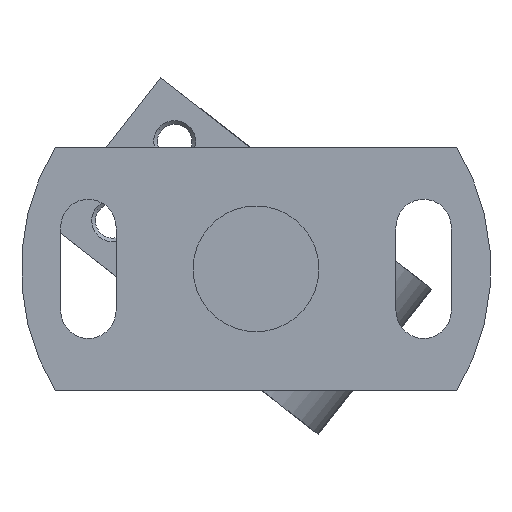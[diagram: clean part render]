
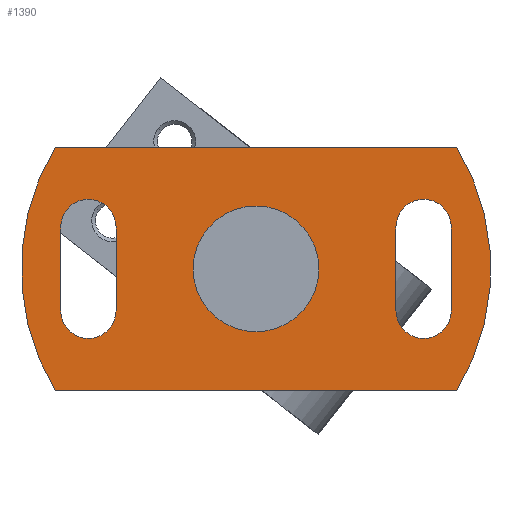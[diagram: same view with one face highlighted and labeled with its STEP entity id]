
A CAD part, front view. The second image highlights one B-rep face of the part: STEP entity #1390.
In plain terms, the highlighted planar face has unit normal (0, -1, 0).
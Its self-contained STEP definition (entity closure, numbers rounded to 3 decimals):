
#31 = EDGE_CURVE ( 'NONE', #4406, #4354, #5312, .T. ) ;
#32 = DIRECTION ( 'NONE',  ( 0., 1., 0. ) ) ;
#130 = DIRECTION ( 'NONE',  ( 0., 0., 1. ) ) ;
#144 = CIRCLE ( 'NONE', #6078, 28. ) ;
#234 = EDGE_CURVE ( 'NONE', #4860, #5114, #6269, .T. ) ;
#245 = LINE ( 'NONE', #2303, #6070 ) ;
#257 = CIRCLE ( 'NONE', #3882, 3.3 ) ;
#300 = CARTESIAN_POINT ( 'NONE',  ( -71.544, -56., -116.504 ) ) ;
#349 = CIRCLE ( 'NONE', #1489, 7.5 ) ;
#366 = DIRECTION ( 'NONE',  ( -1., 0., 0. ) ) ;
#471 = DIRECTION ( 'NONE',  ( 0.855, 0., -0.518 ) ) ;
#675 = EDGE_CURVE ( 'NONE', #4128, #5405, #3898, .T. ) ;
#721 = LINE ( 'NONE', #4176, #6034 ) ;
#734 = ORIENTED_EDGE ( 'NONE', *, *, #3634, .F. ) ;
#750 = CARTESIAN_POINT ( 'NONE',  ( -74.844, -56., -113.204 ) ) ;
#819 = EDGE_CURVE ( 'NONE', #2714, #5405, #144, .T. ) ;
#919 = VERTEX_POINT ( 'NONE', #1636 ) ;
#933 = ORIENTED_EDGE ( 'NONE', *, *, #4132, .F. ) ;
#956 = EDGE_CURVE ( 'NONE', #4354, #1024, #4026, .T. ) ;
#957 = VERTEX_POINT ( 'NONE', #1505 ) ;
#981 = DIRECTION ( 'NONE',  ( 0., 1., 0. ) ) ;
#1003 = CIRCLE ( 'NONE', #3375, 3.3 ) ;
#1023 = EDGE_CURVE ( 'NONE', #1024, #3345, #257, .T. ) ;
#1024 = VERTEX_POINT ( 'NONE', #5062 ) ;
#1046 = DIRECTION ( 'NONE',  ( 0., 0., -1. ) ) ;
#1048 = CARTESIAN_POINT ( 'NONE',  ( -71.544, -56., -103.204 ) ) ;
#1194 = EDGE_LOOP ( 'NONE', ( #6087, #3337, #2327, #6200, #3223 ) ) ;
#1198 = AXIS2_PLACEMENT_3D ( 'NONE', #2445, #4563, #1519 ) ;
#1270 = AXIS2_PLACEMENT_3D ( 'NONE', #3272, #5248, #1802 ) ;
#1280 = VECTOR ( 'NONE', #366, 1000. ) ;
#1311 = DIRECTION ( 'NONE',  ( 1., 0., 0. ) ) ;
#1314 = CARTESIAN_POINT ( 'NONE',  ( -27.591, -56., -93.704 ) ) ;
#1387 = LINE ( 'NONE', #3458, #6159 ) ;
#1390 = ADVANCED_FACE ( 'NONE', ( #4037, #3001, #1485, #3070 ), #2031, .T. ) ;
#1410 = CIRCLE ( 'NONE', #1198, 3.3 ) ;
#1424 = EDGE_CURVE ( 'NONE', #2980, #4408, #1410, .T. ) ;
#1463 = EDGE_LOOP ( 'NONE', ( #5827, #3532, #4844, #2558, #4945 ) ) ;
#1485 = FACE_BOUND ( 'NONE', #5359, .T. ) ;
#1489 = AXIS2_PLACEMENT_3D ( 'NONE', #3401, #2798, #4863 ) ;
#1505 = CARTESIAN_POINT ( 'NONE',  ( -68.244, -56., -113.204 ) ) ;
#1519 = DIRECTION ( 'NONE',  ( 1., 0., 0. ) ) ;
#1526 = VERTEX_POINT ( 'NONE', #2144 ) ;
#1636 = CARTESIAN_POINT ( 'NONE',  ( -51.544, -56., -100.704 ) ) ;
#1637 = EDGE_CURVE ( 'NONE', #4408, #3106, #1003, .T. ) ;
#1802 = DIRECTION ( 'NONE',  ( -1., 0., 0. ) ) ;
#1924 = DIRECTION ( 'NONE',  ( 0., 1., 0. ) ) ;
#2022 = ORIENTED_EDGE ( 'NONE', *, *, #819, .T. ) ;
#2031 = PLANE ( 'NONE',  #3990 ) ;
#2038 = CARTESIAN_POINT ( 'NONE',  ( -71.544, -56., -113.204 ) ) ;
#2136 = DIRECTION ( 'NONE',  ( 0., 0., -1. ) ) ;
#2144 = CARTESIAN_POINT ( 'NONE',  ( -51.544, -56., -115.704 ) ) ;
#2149 = ORIENTED_EDGE ( 'NONE', *, *, #675, .F. ) ;
#2200 = DIRECTION ( 'NONE',  ( 1., 0., 0. ) ) ;
#2303 = CARTESIAN_POINT ( 'NONE',  ( -75.497, -56., -93.704 ) ) ;
#2327 = ORIENTED_EDGE ( 'NONE', *, *, #5304, .T. ) ;
#2433 = DIRECTION ( 'NONE',  ( 0., -1., 0. ) ) ;
#2445 = CARTESIAN_POINT ( 'NONE',  ( -31.544, -56., -113.204 ) ) ;
#2454 = CARTESIAN_POINT ( 'NONE',  ( -27.591, -56., -122.704 ) ) ;
#2476 = DIRECTION ( 'NONE',  ( 0., -1., 0. ) ) ;
#2491 = ORIENTED_EDGE ( 'NONE', *, *, #4772, .F. ) ;
#2544 = CARTESIAN_POINT ( 'NONE',  ( -28.244, -56., -113.204 ) ) ;
#2558 = ORIENTED_EDGE ( 'NONE', *, *, #956, .T. ) ;
#2714 = VERTEX_POINT ( 'NONE', #6447 ) ;
#2798 = DIRECTION ( 'NONE',  ( 0., -1., 0. ) ) ;
#2859 = DIRECTION ( 'NONE',  ( 0., -1., 0. ) ) ;
#2896 = CIRCLE ( 'NONE', #6344, 28. ) ;
#2980 = VERTEX_POINT ( 'NONE', #2544 ) ;
#2982 = DIRECTION ( 'NONE',  ( 1., 0., 0. ) ) ;
#3001 = FACE_BOUND ( 'NONE', #1194, .T. ) ;
#3054 = EDGE_LOOP ( 'NONE', ( #2149, #4391, #933, #2022 ) ) ;
#3070 = FACE_BOUND ( 'NONE', #1463, .T. ) ;
#3106 = VERTEX_POINT ( 'NONE', #3352 ) ;
#3223 = ORIENTED_EDGE ( 'NONE', *, *, #1637, .T. ) ;
#3250 = CARTESIAN_POINT ( 'NONE',  ( -28.244, -56., -103.204 ) ) ;
#3272 = CARTESIAN_POINT ( 'NONE',  ( -31.544, -56., -103.204 ) ) ;
#3316 = CARTESIAN_POINT ( 'NONE',  ( -51.544, -56., -108.204 ) ) ;
#3337 = ORIENTED_EDGE ( 'NONE', *, *, #234, .T. ) ;
#3345 = VERTEX_POINT ( 'NONE', #5822 ) ;
#3352 = CARTESIAN_POINT ( 'NONE',  ( -34.844, -56., -113.204 ) ) ;
#3375 = AXIS2_PLACEMENT_3D ( 'NONE', #3840, #6369, #1311 ) ;
#3401 = CARTESIAN_POINT ( 'NONE',  ( -51.544, -56., -108.204 ) ) ;
#3458 = CARTESIAN_POINT ( 'NONE',  ( -34.844, -56., -113.204 ) ) ;
#3507 = CARTESIAN_POINT ( 'NONE',  ( -51.544, -56., -108.204 ) ) ;
#3523 = AXIS2_PLACEMENT_3D ( 'NONE', #3316, #2433, #4847 ) ;
#3532 = ORIENTED_EDGE ( 'NONE', *, *, #4260, .T. ) ;
#3632 = EDGE_CURVE ( 'NONE', #4128, #5018, #2896, .T. ) ;
#3634 = EDGE_CURVE ( 'NONE', #919, #1526, #3824, .T. ) ;
#3709 = EDGE_CURVE ( 'NONE', #3345, #957, #721, .T. ) ;
#3786 = CARTESIAN_POINT ( 'NONE',  ( -75.497, -56., -122.704 ) ) ;
#3824 = CIRCLE ( 'NONE', #3523, 7.5 ) ;
#3840 = CARTESIAN_POINT ( 'NONE',  ( -31.544, -56., -113.204 ) ) ;
#3872 = CARTESIAN_POINT ( 'NONE',  ( -71.544, -56., -113.204 ) ) ;
#3882 = AXIS2_PLACEMENT_3D ( 'NONE', #1048, #32, #6000 ) ;
#3898 = LINE ( 'NONE', #2454, #1280 ) ;
#3910 = CARTESIAN_POINT ( 'NONE',  ( -51.544, -56., -108.204 ) ) ;
#3990 = AXIS2_PLACEMENT_3D ( 'NONE', #5013, #2476, #5983 ) ;
#4018 = DIRECTION ( 'NONE',  ( 0., -1., 0. ) ) ;
#4026 = LINE ( 'NONE', #6059, #5122 ) ;
#4038 = EDGE_CURVE ( 'NONE', #3106, #4860, #1387, .T. ) ;
#4037 = FACE_OUTER_BOUND ( 'NONE', #3054, .T. ) ;
#4056 = AXIS2_PLACEMENT_3D ( 'NONE', #2038, #981, #2982 ) ;
#4128 = VERTEX_POINT ( 'NONE', #5266 ) ;
#4132 = EDGE_CURVE ( 'NONE', #2714, #5018, #245, .T. ) ;
#4176 = CARTESIAN_POINT ( 'NONE',  ( -68.244, -56., -103.204 ) ) ;
#4260 = EDGE_CURVE ( 'NONE', #957, #4406, #5320, .T. ) ;
#4354 = VERTEX_POINT ( 'NONE', #750 ) ;
#4389 = DIRECTION ( 'NONE',  ( 1., 0., 0. ) ) ;
#4391 = ORIENTED_EDGE ( 'NONE', *, *, #3632, .T. ) ;
#4406 = VERTEX_POINT ( 'NONE', #300 ) ;
#4408 = VERTEX_POINT ( 'NONE', #4726 ) ;
#4537 = DIRECTION ( 'NONE',  ( -0.855, 0., 0.518 ) ) ;
#4563 = DIRECTION ( 'NONE',  ( 0., 1., 0. ) ) ;
#4565 = CARTESIAN_POINT ( 'NONE',  ( -34.844, -56., -103.204 ) ) ;
#4726 = CARTESIAN_POINT ( 'NONE',  ( -31.544, -56., -116.504 ) ) ;
#4772 = EDGE_CURVE ( 'NONE', #1526, #919, #349, .T. ) ;
#4844 = ORIENTED_EDGE ( 'NONE', *, *, #31, .T. ) ;
#4847 = DIRECTION ( 'NONE',  ( 0., 0., -1. ) ) ;
#4860 = VERTEX_POINT ( 'NONE', #4565 ) ;
#4863 = DIRECTION ( 'NONE',  ( 0., 0., -1. ) ) ;
#4945 = ORIENTED_EDGE ( 'NONE', *, *, #1023, .T. ) ;
#5013 = CARTESIAN_POINT ( 'NONE',  ( -44.044, -56., -108.204 ) ) ;
#5018 = VERTEX_POINT ( 'NONE', #1314 ) ;
#5062 = CARTESIAN_POINT ( 'NONE',  ( -74.844, -56., -103.204 ) ) ;
#5114 = VERTEX_POINT ( 'NONE', #3250 ) ;
#5115 = AXIS2_PLACEMENT_3D ( 'NONE', #3872, #1924, #4389 ) ;
#5122 = VECTOR ( 'NONE', #130, 1000. ) ;
#5248 = DIRECTION ( 'NONE',  ( 0., 1., 0. ) ) ;
#5266 = CARTESIAN_POINT ( 'NONE',  ( -27.591, -56., -122.704 ) ) ;
#5304 = EDGE_CURVE ( 'NONE', #5114, #2980, #5997, .T. ) ;
#5312 = CIRCLE ( 'NONE', #4056, 3.3 ) ;
#5320 = CIRCLE ( 'NONE', #5115, 3.3 ) ;
#5359 = EDGE_LOOP ( 'NONE', ( #2491, #734 ) ) ;
#5405 = VERTEX_POINT ( 'NONE', #3786 ) ;
#5443 = DIRECTION ( 'NONE',  ( 0., 0., 1. ) ) ;
#5498 = CARTESIAN_POINT ( 'NONE',  ( -28.244, -56., -103.204 ) ) ;
#5637 = VECTOR ( 'NONE', #1046, 1000. ) ;
#5822 = CARTESIAN_POINT ( 'NONE',  ( -68.244, -56., -103.204 ) ) ;
#5827 = ORIENTED_EDGE ( 'NONE', *, *, #3709, .T. ) ;
#5983 = DIRECTION ( 'NONE',  ( 0., 0., -1. ) ) ;
#5997 = LINE ( 'NONE', #5498, #5637 ) ;
#6000 = DIRECTION ( 'NONE',  ( -1., 0., 0. ) ) ;
#6034 = VECTOR ( 'NONE', #2136, 1000. ) ;
#6059 = CARTESIAN_POINT ( 'NONE',  ( -74.844, -56., -113.204 ) ) ;
#6070 = VECTOR ( 'NONE', #2200, 1000. ) ;
#6078 = AXIS2_PLACEMENT_3D ( 'NONE', #3507, #4018, #4537 ) ;
#6087 = ORIENTED_EDGE ( 'NONE', *, *, #4038, .T. ) ;
#6159 = VECTOR ( 'NONE', #5443, 1000. ) ;
#6200 = ORIENTED_EDGE ( 'NONE', *, *, #1424, .T. ) ;
#6269 = CIRCLE ( 'NONE', #1270, 3.3 ) ;
#6344 = AXIS2_PLACEMENT_3D ( 'NONE', #3910, #2859, #471 ) ;
#6369 = DIRECTION ( 'NONE',  ( 0., 1., 0. ) ) ;
#6447 = CARTESIAN_POINT ( 'NONE',  ( -75.497, -56., -93.704 ) ) ;
